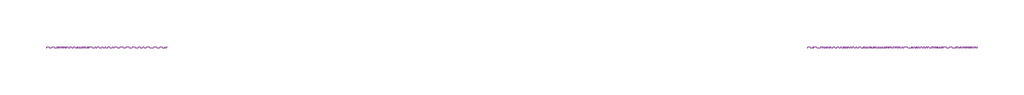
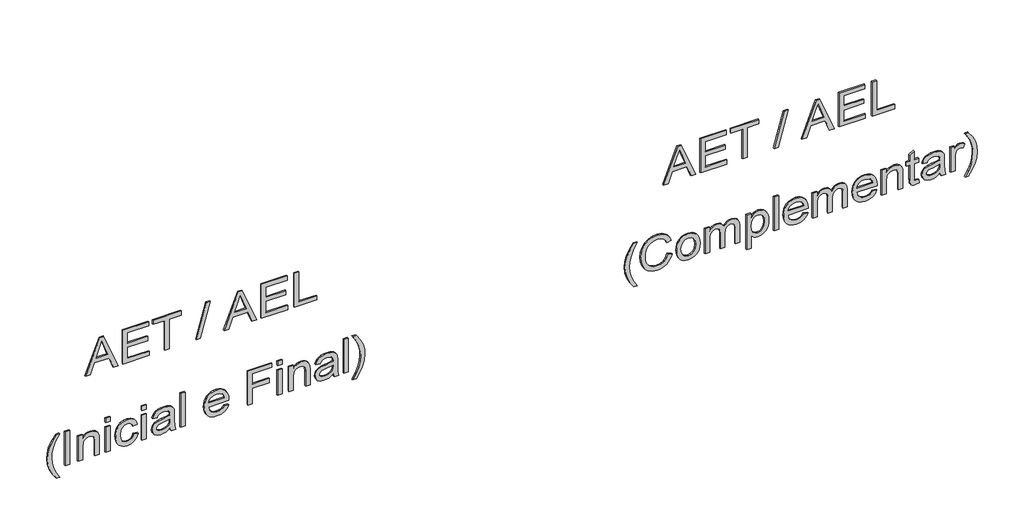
# One storey, part 5 of 5: 2 proxies.
"""IFC4 building model written with IfcOpenShell, lengths in millimetres."""

import ifcopenshell
import ifcopenshell.guid

model = None  # the IFC model being written
_history = None  # IfcOwnerHistory: only IFC2X3 demands one
_inside = {}  # id of a spatial element -> (the spatial element, [elements in it])
_under = {}  # id of a project, library or spatial element -> (it, [spatial elements below it])
_declared = {}  # id of a project -> (the project, [libraries it declares])
_typed = {}  # id of a type object -> (the type object, [elements of that type])
_made_of = {}  # id of a material, layer set ... -> (it, [elements and type objects made of it])


def new_model(schema):
    """Start an empty IFC model of exactly this schema.

    Asked for "IFC4X3", IfcOpenShell would pick the latest addendum, in which some entities
    have other attributes; the version numbers below select the first issue.
    IFC2X3 requires an IfcOwnerHistory on every rooted entity: one is made here for all.
    """
    global model, _history
    if schema == "IFC4X3":
        model = ifcopenshell.file(schema_version=(4, 3, 0, 0))
    else:
        model = ifcopenshell.file(schema=schema)
    _inside.clear()
    _under.clear()
    _declared.clear()
    _typed.clear()
    _made_of.clear()
    _history = None
    if model.schema == "IFC2X3":
        org = make("IfcOrganization", Name="unknown")
        user = make(
            "IfcPersonAndOrganization",
            ThePerson=make("IfcPerson", FamilyName="unknown"),
            TheOrganization=org,
        )
        app = make(
            "IfcApplication",
            ApplicationDeveloper=org,
            Version="unknown",
            ApplicationFullName="unknown",
            ApplicationIdentifier="unknown",
        )
        _history = make(
            "IfcOwnerHistory",
            OwningUser=user,
            OwningApplication=app,
            ChangeAction="ADDED",
            CreationDate=0,
        )
    return model


def make(cls, **values):
    """One entity of the class cls with the attributes given. An attribute that is None is left unset."""
    return model.create_entity(
        cls, **{name: value for name, value in values.items() if value is not None}
    )


def rooted(cls, **values):
    """An entity with a GlobalId (a new one), such as an element, a storey or a relation."""
    return make(cls, GlobalId=ifcopenshell.guid.new(), OwnerHistory=_history, **values)


def si_unit(unit_type, name, prefix=None):
    """IfcSIUnit, for example si_unit("LENGTHUNIT", "METRE", prefix="MILLI")."""
    return make("IfcSIUnit", UnitType=unit_type, Prefix=prefix, Name=name)


def assignment(units):
    """IfcUnitAssignment: the units of a project."""
    return None if units is None else make("IfcUnitAssignment", Units=units)


def point(xyz):
    """IfcCartesianPoint."""
    return None if xyz is None else make("IfcCartesianPoint", Coordinates=xyz)


def direction(xyz):
    """IfcDirection."""
    return None if xyz is None else make("IfcDirection", DirectionRatios=xyz)


def frame(location, z_axis=None, x_axis=None):
    """IfcAxis2Placement3D, a coordinate frame: its origin and axes. An axis left out is left unset."""
    return make(
        "IfcAxis2Placement3D",
        Location=point(location),
        Axis=direction(z_axis),
        RefDirection=direction(x_axis),
    )


def origin():
    """The frame at (0, 0, 0) with its axes left unset."""
    return frame((0.0, 0.0, 0.0))


def place(relative_to, where):
    """IfcLocalPlacement: puts the frame where relative to a parent placement (None: the world)."""
    return make(
        "IfcLocalPlacement", PlacementRelTo=relative_to, RelativePlacement=where
    )


def context(
    kind, dimensions, precision=None, world=None, true_north=None, identifier=None
):
    """IfcGeometricRepresentationContext, for example the 3D "Model" context."""
    return make(
        "IfcGeometricRepresentationContext",
        ContextIdentifier=identifier,
        ContextType=kind,
        CoordinateSpaceDimension=dimensions,
        Precision=precision,
        WorldCoordinateSystem=world,
        TrueNorth=true_north,
    )


def project(units=None, contexts=None):
    """IfcProject with its units and contexts."""
    return rooted(
        "IfcProject",
        Name="project",
        RepresentationContexts=contexts,
        UnitsInContext=assignment(units),
    )


def spatial(cls, under=None, at=None, **own):
    """A site, building, storey or space (cls), placed at a placement, below another one or the project."""
    s = rooted(cls, ObjectPlacement=at, **own)
    if under is not None:
        _under.setdefault(under.id(), (under, []))[1].append(s)
    return s


def polyline(points):
    """IfcPolyline through the points."""
    return make("IfcPolyline", Points=[point(p) for p in points])


def outline(outer, holes=None, kind="AREA"):
    """IfcArbitraryClosedProfileDef: a profile drawn as a closed curve; with holes, ...WithVoids."""
    if holes is None:
        return make("IfcArbitraryClosedProfileDef", ProfileType=kind, OuterCurve=outer)
    return make(
        "IfcArbitraryProfileDefWithVoids",
        ProfileType=kind,
        OuterCurve=outer,
        InnerCurves=holes,
    )


def extrude(swept, where, along, depth):
    """IfcExtrudedAreaSolid: the profile swept, set in the frame where, extruded along a direction by depth."""
    return make(
        "IfcExtrudedAreaSolid",
        SweptArea=swept,
        Position=where,
        ExtrudedDirection=direction(along),
        Depth=depth,
    )


def shape(context_of_items, identifier, shape_type, items):
    """IfcShapeRepresentation: the items that make up one representation, for example the "Body"."""
    return make(
        "IfcShapeRepresentation",
        ContextOfItems=context_of_items,
        RepresentationIdentifier=identifier,
        RepresentationType=shape_type,
        Items=items,
    )


def made_of(thing, what):
    """Note that an element or type object is made of a material, layer set ...; save() writes the relation."""
    if what is not None:
        _made_of.setdefault(what.id(), (what, []))[1].append(thing)
    return thing


def element(
    cls,
    number,
    at=None,
    inside=None,
    cuts=None,
    type_object=None,
    material=None,
    context=None,
    identifier="Body",
    shape_type=None,
    held_by="IfcProductDefinitionShape",
    body=None,
    shapes=None,
    **own,
):
    """One element of the class cls, such as IfcWall. Its Tag is "e" and its number.

    at: its placement. inside: the storey or other place that contains it. cuts: it is an
    opening in that element (IfcRelVoidsElement). A single representation is given by context,
    identifier, shape_type and body (its items); several are given by shapes. held_by: the class
    of the entity that holds the representations. save() writes the other relations.
    """
    e = rooted(cls, Tag="e%d" % number, ObjectPlacement=at, **own)
    if body is not None:
        shapes = [shape(context, identifier, shape_type, body)]
    if shapes is not None:
        e.Representation = make(held_by, Representations=shapes)
    if inside is not None:
        _inside.setdefault(inside.id(), (inside, []))[1].append(e)
    if cuts is not None:
        rooted(
            "IfcRelVoidsElement", RelatingBuildingElement=cuts, RelatedOpeningElement=e
        )
    if type_object is not None:
        _typed.setdefault(type_object.id(), (type_object, []))[1].append(e)
    return made_of(e, material)


def aggregate(whole, parts):
    """IfcRelAggregates: a whole, such as a stair, and the parts it consists of."""
    return rooted("IfcRelAggregates", RelatingObject=whole, RelatedObjects=parts)


def save(model, path):
    """Write the relations noted so far, then the file.

    IfcRelAggregates (storeys below a building ...), IfcRelContainedInSpatialStructure (elements
    in a storey), IfcRelDefinesByType, IfcRelAssociatesMaterial and IfcRelDeclares: one each for
    every whole, place, type object, material and project.
    """
    for whole, parts in _under.values():
        aggregate(whole, parts)
    for where, things in _inside.values():
        rooted(
            "IfcRelContainedInSpatialStructure",
            RelatedElements=things,
            RelatingStructure=where,
        )
    for kind, things in _typed.values():
        rooted("IfcRelDefinesByType", RelatedObjects=things, RelatingType=kind)
    for what, things in _made_of.values():
        rooted("IfcRelAssociatesMaterial", RelatedObjects=things, RelatingMaterial=what)
    for by, libraries in _declared.values():
        rooted("IfcRelDeclares", RelatingContext=by, RelatedDefinitions=libraries)
    model.write(path)


model = new_model("IFC4")

# Units and contexts
model_context = context("Model", 3, world=origin())
ifc_project = project(units=[si_unit("LENGTHUNIT", "METRE", prefix="MILLI")], contexts=[model_context])

# Site, building, storey
site = spatial("IfcSite", under=ifc_project)
building = spatial("IfcBuilding", under=site)
storey = spatial("IfcBuildingStorey", under=building, Name="03 - Marelli - Planta Baixa - Painéis Mistos", Elevation=24000.0)

# Proxies
placement = place(None, origin())
element("IfcBuildingElementProxy", 1, Name="300mm Arial", ObjectType="300mm Arial", at=placement, inside=storey, context=model_context, shape_type="SweptSolid", body=[
    extrude(outline(polyline([(30065.9244535, 32862.8276534), (30065.9244535, 32902.6324853), (30160.1022443, 32937.06624), (30160.1022443, 33061.1896252), (30065.9244535, 33095.6969563), (30065.9244535, 33135.5017882), (30367.293384, 33015.2043758), (30367.293384, 32983.1250658), (30065.9244535, 32862.8276534)]), holes=[polyline([(30197.7733606, 32950.898603), (30278.3395176, 32980.4027391), (30329.6222677, 32999.1647208), (30271.8647944, 33020.2811473), (30197.7733606, 33047.4308386), (30197.7733606, 32950.898603)])]), frame((0.0, 8778.3159498, 0.0), z_axis=(0.0, 1.0, 0.0), x_axis=(0.0, 0.0, 1.0)), (0.0, 0.0, 1.0), 10.0),
    extrude(outline(polyline([(30065.9244535, 33175.7480785), (30065.9244535, 33397.0658868), (30103.5955698, 33397.0658868), (30103.5955698, 33213.4191948), (30202.4822501, 33213.4191948), (30202.4822501, 33382.9392182), (30240.1533665, 33382.9392182), (30240.1533665, 33213.4191948), (30329.6222677, 33213.4191948), (30329.6222677, 33392.3569973), (30367.293384, 33392.3569973), (30367.293384, 33175.7480785), (30065.9244535, 33175.7480785)])), frame((0.0, 8778.3159498, 0.0), z_axis=(0.0, 1.0, 0.0), x_axis=(0.0, 0.0, 1.0)), (0.0, 0.0, 1.0), 10.0),
    extrude(outline(polyline([(30065.9244535, 33528.9147939), (30065.9244535, 33566.5859102), (30329.6222677, 33566.5859102), (30329.6222677, 33665.4725905), (30367.293384, 33665.4725905), (30367.293384, 33430.0281136), (30329.6222677, 33430.0281136), (30329.6222677, 33528.9147939), (30065.9244535, 33528.9147939)])), frame((0.0, 8778.3159498, 0.0), z_axis=(0.0, 1.0, 0.0), x_axis=(0.0, 0.0, 1.0)), (0.0, 0.0, 1.0), 10.0),
    extrude(outline(polyline([(30065.9244535, 33792.612608), (30065.9244535, 33826.6049044), (30367.293384, 33911.364916), (30367.293384, 33877.3726197), (30065.9244535, 33792.612608)])), frame((0.0, 8778.3159498, 0.0), z_axis=(0.0, 1.0, 0.0), x_axis=(0.0, 0.0, 1.0)), (0.0, 0.0, 1.0), 10.0),
    extrude(outline(polyline([(30065.9244535, 34025.9233693), (30065.9244535, 34065.7282012), (30160.1022443, 34100.161956), (30160.1022443, 34224.2853411), (30065.9244535, 34258.7926723), (30065.9244535, 34298.5975042), (30367.293384, 34178.3000917), (30367.293384, 34146.2207818), (30065.9244535, 34025.9233693)]), holes=[polyline([(30197.7733606, 34113.994319), (30278.3395176, 34143.498455), (30329.6222677, 34162.2604368), (30271.8647944, 34183.3768633), (30197.7733606, 34210.5265545), (30197.7733606, 34113.994319)])]), frame((0.0, 8778.3159498, 0.0), z_axis=(0.0, 1.0, 0.0), x_axis=(0.0, 0.0, 1.0)), (0.0, 0.0, 1.0), 10.0),
    extrude(outline(polyline([(30065.9244535, 34338.8437944), (30065.9244535, 34560.1616027), (30103.5955698, 34560.1616027), (30103.5955698, 34376.5149107), (30202.4822501, 34376.5149107), (30202.4822501, 34546.0349341), (30240.1533665, 34546.0349341), (30240.1533665, 34376.5149107), (30329.6222677, 34376.5149107), (30329.6222677, 34555.4527132), (30367.293384, 34555.4527132), (30367.293384, 34338.8437944), (30065.9244535, 34338.8437944)])), frame((0.0, 8778.3159498, 0.0), z_axis=(0.0, 1.0, 0.0), x_axis=(0.0, 0.0, 1.0)), (0.0, 0.0, 1.0), 10.0),
    extrude(outline(polyline([(30065.9244535, 34616.6682772), (30065.9244535, 34805.0238587), (30103.5955698, 34805.0238587), (30103.5955698, 34654.3393935), (30367.293384, 34654.3393935), (30367.293384, 34616.6682772), (30065.9244535, 34616.6682772)])), frame((0.0, 8778.3159498, 0.0), z_axis=(0.0, 1.0, 0.0), x_axis=(0.0, 0.0, 1.0)), (0.0, 0.0, 1.0), 10.0),
    extrude(outline(polyline([(29249.3155348, 32615.3902234), (29249.3155348, 32643.6435607), (29297.5540614, 32614.8016122), (29345.8109821, 32594.2002205), (29394.0862969, 32581.8393855), (29442.3800058, 32577.7191071), (29480.2534572, 32580.091946), (29517.9429677, 32587.2104626), (29575.7740173, 32608.4004655), (29635.4444769, 32643.6435607), (29635.4444769, 32615.3902234), (29584.934279, 32580.6989513), (29534.2033518, 32556.3819514), (29489.4137189, 32544.131481), (29442.600735, 32540.0479908), (29389.2210575, 32545.5110385), (29337.68079, 32561.9001813), (29290.2791949, 32586.1987871), (29249.3155348, 32615.3902234)])), frame((0.0, 8778.3159498, 0.0), z_axis=(0.0, 1.0, 0.0), x_axis=(0.0, 0.0, 1.0)), (0.0, 0.0, 1.0), 10.0),
    extrude(outline(polyline([(32728.4035724, 8778.3159498), (32690.732456, 8778.3159498), (32690.732456, 8788.3159498), (32728.4035724, 8788.3159498), (32728.4035724, 8778.3159498)])), frame((0.0, 0.0, 29334.0755465), z_axis=(0.0, 0.0, 1.0), x_axis=(1.0, 0.0, 0.0)), (0.0, 0.0, 1.0), 301.3689304),
    extrude(outline(polyline([(29334.0755465, 32799.0369154), (29334.0755465, 32836.7080317), (29451.5034793, 32836.7080317), (29486.2131456, 32841.003054), (29498.5877762, 32846.3718319), (29507.6422718, 32853.8881209), (29518.7339139, 32872.6960879), (29522.431128, 32894.7598106), (29520.7848561, 32908.6565529), (29515.8460403, 32920.6219148), (29508.1481095, 32929.9569205), (29498.2244927, 32935.962594), (29464.8943839, 32940.3036016), (29334.0755465, 32940.3036016), (29334.0755465, 32977.9747179), (29469.9711555, 32977.9747179), (29506.391473, 32975.9881551), (29534.0929872, 32964.6941779), (29544.6328064, 32954.5958171), (29552.9285454, 32940.4139662), (29558.3088196, 32923.4086209), (29560.1022443, 32904.8397772), (29557.8765582, 32883.8613065), (29551.1995, 32865.513192), (29540.0710697, 32849.7954337), (29524.4912672, 32836.7080317), (29555.3933548, 32836.7080317), (29555.3933548, 32799.0369154), (29334.0755465, 32799.0369154)])), frame((0.0, 8778.3159498, 0.0), z_axis=(0.0, 1.0, 0.0), x_axis=(0.0, 0.0, 1.0)), (0.0, 0.0, 1.0), 10.0),
    extrude(outline(polyline([(33067.4436191, 8778.3159498), (33029.7725028, 8778.3159498), (33029.7725028, 8788.3159498), (33067.4436191, 8788.3159498), (33067.4436191, 8778.3159498)])), frame((0.0, 0.0, 29597.7733606), z_axis=(0.0, 0.0, 1.0), x_axis=(1.0, 0.0, 0.0)), (0.0, 0.0, 1.0), 37.6711163),
    extrude(outline(polyline([(33067.4436191, 8778.3159498), (33029.7725028, 8778.3159498), (33029.7725028, 8788.3159498), (33067.4436191, 8788.3159498), (33067.4436191, 8778.3159498)])), frame((0.0, 0.0, 29334.0755465), z_axis=(0.0, 0.0, 1.0), x_axis=(1.0, 0.0, 0.0)), (0.0, 0.0, 1.0), 221.3178083),
    extrude(outline(polyline([(29414.1266686, 33265.2169797), (29393.2493654, 33258.7882419), (29378.5892679, 33247.1539738), (29369.9256469, 33231.160304), (29367.0377732, 33211.6533612), (29371.6638893, 33187.6214699), (29385.5422376, 33168.647956), (29409.6477053, 33156.3147121), (29444.9551798, 33152.2036308), (29479.7936048, 33156.4066826), (29503.816299, 33169.015838), (29517.7774208, 33188.3388398), (29522.431128, 33212.6834308), (29520.0674862, 33229.1737412), (29512.9765607, 33243.0336954), (29501.1951398, 33253.6746821), (29484.7600117, 33260.5080902), (29489.4689012, 33298.1792065), (29519.4512838, 33287.9244959), (29541.7081445, 33269.6683519), (29555.5037194, 33244.2201148), (29560.1022443, 33212.3891252), (29556.7545181, 33185.7452717), (29546.7113397, 33161.1431633), (29529.9635118, 33140.5785598), (29506.5018376, 33126.0472209), (29477.448357, 33117.4111911), (29443.9251102, 33114.5325145), (29417.8675687, 33116.2178739), (29395.024396, 33121.2739521), (29375.3955923, 33129.700749), (29358.9811575, 33141.4982647), (29346.0248135, 33156.0732895), (29336.7702821, 33172.8326137), (29331.2175632, 33191.7762372), (29329.3666569, 33212.90416), (29334.6733547, 33245.535293), (29350.593448, 33272.648196), (29375.9129264, 33292.3850651), (29409.4177791, 33302.888096), (29414.1266686, 33265.2169797)])), frame((0.0, 8778.3159498, 0.0), z_axis=(0.0, 1.0, 0.0), x_axis=(0.0, 0.0, 1.0)), (0.0, 0.0, 1.0), 10.0),
    extrude(outline(polyline([(33373.5214391, 8778.3159498), (33335.8503228, 8778.3159498), (33335.8503228, 8788.3159498), (33373.5214391, 8788.3159498), (33373.5214391, 8778.3159498)])), frame((0.0, 0.0, 29597.7733606), z_axis=(0.0, 0.0, 1.0), x_axis=(1.0, 0.0, 0.0)), (0.0, 0.0, 1.0), 37.6711163),
    extrude(outline(polyline([(33373.5214391, 8778.3159498), (33335.8503228, 8778.3159498), (33335.8503228, 8788.3159498), (33373.5214391, 8788.3159498), (33373.5214391, 8778.3159498)])), frame((0.0, 0.0, 29334.0755465), z_axis=(0.0, 0.0, 1.0), x_axis=(1.0, 0.0, 0.0)), (0.0, 0.0, 1.0), 221.3178083),
    extrude(outline(polyline([(29362.3288837, 33571.2947997), (29334.0755465, 33580.7125788), (29334.0755465, 33618.3836951), (29365.7501862, 33610.8789024), (29431.1963932, 33608.965916), (29478.0645594, 33608.965916), (29511.0267861, 33607.126506), (29525.1442577, 33602.5831634), (29536.5945848, 33595.5750114), (29545.856014, 33585.0076011), (29553.406792, 33569.7864835), (29558.4283812, 33549.598959), (29560.1022443, 33524.1323279), (29558.207652, 33497.5804449), (29552.5238752, 33474.4314704), (29543.3452194, 33455.5039417), (29530.9659903, 33441.6163964), (29514.7791825, 33431.8583265), (29494.1777908, 33425.319224), (29489.4689012, 33462.9903403), (29505.1314772, 33470.4767389), (29515.1838527, 33481.1637109), (29520.6193092, 33496.8354839), (29522.431128, 33519.2762856), (29519.7088012, 33543.5197091), (29511.5418209, 33560.9205274), (29500.5421493, 33568.7012316), (29483.7299421, 33571.2947997), (29475.3422326, 33571.0740705), (29468.3524747, 33544.2554731), (29462.3927864, 33505.7382282), (29456.7274037, 33473.1438834), (29444.3665686, 33446.7667443), (29434.8752131, 33436.1625458), (29422.7351073, 33427.8208216), (29408.5532564, 33422.4129563), (29392.9366657, 33420.6103345), (29367.6079903, 33425.3836034), (29347.2457219, 33439.70341), (29333.8364232, 33462.925961), (29329.3666569, 33494.4074627), (29331.224461, 33515.2755689), (29336.7978732, 33534.7641176), (29346.896234, 33553.2961731), (29362.3288837, 33571.2947997)]), holes=[polyline([(29437.6711163, 33571.2947997), (29427.0025384, 33571.0740705), (29410.0799667, 33569.5841484), (29397.8662844, 33565.1143822), (29386.0112871, 33555.0344155), (29376.0508821, 33540.5398649), (29369.2910505, 33522.6607999), (29367.0377732, 33502.4272902), (29369.0795183, 33483.3434117), (29375.2047535, 33469.5018516), (29384.3834093, 33461.086551), (29395.5854161, 33458.2814508), (29410.0799667, 33463.4317987), (29420.0127805, 33478.1102903), (29426.1196217, 33510.5206941), (29437.6711163, 33571.2947997)])]), frame((0.0, 8778.3159498, 0.0), z_axis=(0.0, 1.0, 0.0), x_axis=(0.0, 0.0, 1.0)), (0.0, 0.0, 1.0), 10.0),
    extrude(outline(polyline([(33698.4348172, 8778.3159498), (33660.7637009, 8778.3159498), (33660.7637009, 8788.3159498), (33698.4348172, 8788.3159498), (33698.4348172, 8778.3159498)])), frame((0.0, 0.0, 29334.0755465), z_axis=(0.0, 0.0, 1.0), x_axis=(1.0, 0.0, 0.0)), (0.0, 0.0, 1.0), 301.3689304),
    extrude(outline(polyline([(29400.0, 34027.6156265), (29385.1191733, 34017.0574133), (29374.9104479, 34003.3354148), (29369.0059419, 33986.4496313), (29367.0377732, 33966.4000625), (29371.2868103, 33939.7378149), (29384.0339214, 33917.8764274), (29404.7640718, 33902.7288862), (29432.9622268, 33896.2081778), (29432.9622268, 34065.507472), (29443.1157698, 34065.7282012), (29469.3687487, 34063.9416743), (29492.5039277, 34058.5820935), (29512.5213067, 34049.6494588), (29529.4208859, 34037.1437702), (29542.8439802, 34021.8237844), (29552.4319047, 34004.4482579), (29558.1846594, 33985.0171907), (29560.1022443, 33963.530583), (29558.1800609, 33941.3289046), (29552.4135106, 33921.2977299), (29542.8025935, 33903.437059), (29529.3473095, 33887.746892), (29512.4109422, 33874.9675911), (29492.3567749, 33865.8395191), (29469.1848077, 33860.3626759), (29442.8950406, 33858.5370615), (29417.467497, 33860.3442818), (29395.0427901, 33865.7659427), (29375.62092, 33874.8020442), (29359.2018867, 33887.4525864), (29346.1489737, 33903.1841402), (29336.8254644, 33921.4632768), (29331.2313588, 33942.2899963), (29329.3666569, 33965.6642985), (29333.6892704, 34001.3212609), (29346.6571107, 34030.0068595), (29367.4608375, 34051.2428477), (29395.2911105, 34064.5509788), (29400.0, 34027.6156265)]), holes=[polyline([(29470.6333431, 33896.2081778), (29491.8693312, 33902.3977924), (29508.3412476, 33916.9935106), (29518.9086579, 33937.9903754), (29522.431128, 33963.3834302), (29518.0165441, 33991.011368), (29504.7727922, 34012.9739231), (29490.535759, 34022.9619193), (29470.6333431, 34028.0570849), (29470.6333431, 33896.2081778)])]), frame((0.0, 8778.3159498, 0.0), z_axis=(0.0, 1.0, 0.0), x_axis=(0.0, 0.0, 1.0)), (0.0, 0.0, 1.0), 10.0),
    extrude(outline(polyline([(29334.0755465, 34225.8304455), (29334.0755465, 34263.5015618), (29470.6333431, 34263.5015618), (29470.6333431, 34404.768248), (29508.3044594, 34404.768248), (29508.3044594, 34263.5015618), (29597.7733606, 34263.5015618), (29597.7733606, 34428.3126957), (29635.4444769, 34428.3126957), (29635.4444769, 34225.8304455), (29334.0755465, 34225.8304455)])), frame((0.0, 8778.3159498, 0.0), z_axis=(0.0, 1.0, 0.0), x_axis=(0.0, 0.0, 1.0)), (0.0, 0.0, 1.0), 10.0),
    extrude(outline(polyline([(34513.0727074, 8778.3159498), (34475.4015911, 8778.3159498), (34475.4015911, 8788.3159498), (34513.0727074, 8788.3159498), (34513.0727074, 8778.3159498)])), frame((0.0, 0.0, 29597.7733606), z_axis=(0.0, 0.0, 1.0), x_axis=(1.0, 0.0, 0.0)), (0.0, 0.0, 1.0), 37.6711163),
    extrude(outline(polyline([(34513.0727074, 8778.3159498), (34475.4015911, 8778.3159498), (34475.4015911, 8788.3159498), (34513.0727074, 8788.3159498), (34513.0727074, 8778.3159498)])), frame((0.0, 0.0, 29334.0755465), z_axis=(0.0, 0.0, 1.0), x_axis=(1.0, 0.0, 0.0)), (0.0, 0.0, 1.0), 221.3178083),
    extrude(outline(polyline([(29334.0755465, 34569.5793818), (29334.0755465, 34607.2504981), (29451.5034793, 34607.2504981), (29486.2131456, 34611.5455204), (29498.5877762, 34616.9142983), (29507.6422718, 34624.4305873), (29518.7339139, 34643.2385543), (29522.431128, 34665.302277), (29520.7848561, 34679.1990193), (29515.8460403, 34691.1643812), (29508.1481095, 34700.4993868), (29498.2244927, 34706.5050604), (29464.8943839, 34710.846068), (29334.0755465, 34710.846068), (29334.0755465, 34748.5171843), (29469.9711555, 34748.5171843), (29506.391473, 34746.5306215), (29534.0929872, 34735.2366442), (29544.6328064, 34725.1382835), (29552.9285454, 34710.9564326), (29558.3088196, 34693.9510873), (29560.1022443, 34675.3822436), (29557.8765582, 34654.4037729), (29551.1995, 34636.0556583), (29540.0710697, 34620.3379001), (29524.4912672, 34607.2504981), (29555.3933548, 34607.2504981), (29555.3933548, 34569.5793818), (29334.0755465, 34569.5793818)])), frame((0.0, 8778.3159498, 0.0), z_axis=(0.0, 1.0, 0.0), x_axis=(0.0, 0.0, 1.0)), (0.0, 0.0, 1.0), 10.0),
    extrude(outline(polyline([(29362.3288837, 34941.5816553), (29334.0755465, 34950.9994344), (29334.0755465, 34988.6705507), (29365.7501862, 34981.165758), (29431.1963932, 34979.2527716), (29478.0645594, 34979.2527716), (29511.0267861, 34977.4133617), (29525.1442577, 34972.870019), (29536.5945848, 34965.861867), (29545.856014, 34955.2944567), (29553.406792, 34940.0733392), (29558.4283812, 34919.8858147), (29560.1022443, 34894.4191836), (29558.207652, 34867.8673006), (29552.5238752, 34844.718326), (29543.3452194, 34825.7907974), (29530.9659903, 34811.903252), (29514.7791825, 34802.1451821), (29494.1777908, 34795.6060797), (29489.4689012, 34833.277196), (29505.1314772, 34840.7635946), (29515.1838527, 34851.4505665), (29520.6193092, 34867.1223395), (29522.431128, 34889.5631412), (29519.7088012, 34913.8065647), (29511.5418209, 34931.2073831), (29500.5421493, 34938.9880873), (29483.7299421, 34941.5816553), (29475.3422326, 34941.3609261), (29468.3524747, 34914.5423287), (29462.3927864, 34876.0250838), (29456.7274037, 34843.430739), (29444.3665686, 34817.0536), (29434.8752131, 34806.4494015), (29422.7351073, 34798.1076772), (29408.5532564, 34792.6998119), (29392.9366657, 34790.8971901), (29367.6079903, 34795.670459), (29347.2457219, 34809.9902657), (29333.8364232, 34833.2128166), (29329.3666569, 34864.6943183), (29331.224461, 34885.5624245), (29336.7978732, 34905.0509732), (29346.896234, 34923.5830287), (29362.3288837, 34941.5816553)]), holes=[polyline([(29437.6711163, 34941.5816553), (29427.0025384, 34941.3609261), (29410.0799667, 34939.8710041), (29397.8662844, 34935.4012378), (29386.0112871, 34925.3212712), (29376.0508821, 34910.8267205), (29369.2910505, 34892.9476556), (29367.0377732, 34872.7141458), (29369.0795183, 34853.6302673), (29375.2047535, 34839.7887073), (29384.3834093, 34831.3734066), (29395.5854161, 34828.5683064), (29410.0799667, 34833.7186544), (29420.0127805, 34848.397146), (29426.1196217, 34880.8075497), (29437.6711163, 34941.5816553)])]), frame((0.0, 8778.3159498, 0.0), z_axis=(0.0, 1.0, 0.0), x_axis=(0.0, 0.0, 1.0)), (0.0, 0.0, 1.0), 10.0),
    extrude(outline(polyline([(35068.7216729, 8778.3159498), (35031.0505566, 8778.3159498), (35031.0505566, 8788.3159498), (35068.7216729, 8788.3159498), (35068.7216729, 8778.3159498)])), frame((0.0, 0.0, 29334.0755465), z_axis=(0.0, 0.0, 1.0), x_axis=(1.0, 0.0, 0.0)), (0.0, 0.0, 1.0), 301.3689304),
    extrude(outline(polyline([(29249.3155348, 35134.6461264), (29290.2791949, 35163.699607), (29337.68079, 35188.0258039), (29389.2210575, 35204.4977202), (29442.600735, 35209.988359), (29489.4137189, 35205.9048689), (29534.2033518, 35193.6543984), (29584.934279, 35169.3373986), (29635.4444769, 35134.6461264), (29635.4444769, 35106.3927892), (29575.1854061, 35141.8566135), (29546.8400984, 35153.8311725), (29517.2807801, 35162.8258872), (29479.9775458, 35169.9444038), (29442.3800058, 35172.3172427), (29394.0862969, 35168.1969644), (29345.8109821, 35155.8361293), (29297.5540614, 35135.2347376), (29249.3155348, 35106.3927892), (29249.3155348, 35134.6461264)])), frame((0.0, 8778.3159498, 0.0), z_axis=(0.0, 1.0, 0.0), x_axis=(0.0, 0.0, 1.0)), (0.0, 0.0, 1.0), 10.0),
])
element("IfcBuildingElementProxy", 2, Name="300mm Arial", ObjectType="300mm Arial", at=placement, inside=storey, context=model_context, shape_type="SweptSolid", body=[
    extrude(outline(polyline([(30065.9244535, 37716.8520777), (30065.9244535, 37756.6569096), (30160.1022443, 37791.0906643), (30160.1022443, 37915.2140495), (30065.9244535, 37949.7213807), (30065.9244535, 37989.5262125), (30367.293384, 37869.2288001), (30367.293384, 37837.1494901), (30065.9244535, 37716.8520777)]), holes=[polyline([(30197.7733606, 37804.9230274), (30278.3395176, 37834.4271634), (30329.6222677, 37853.1891451), (30271.8647944, 37874.3055716), (30197.7733606, 37901.4552629), (30197.7733606, 37804.9230274)])]), frame((0.0, 8778.3159498, 0.0), z_axis=(0.0, 1.0, 0.0), x_axis=(0.0, 0.0, 1.0)), (0.0, 0.0, 1.0), 10.0),
    extrude(outline(polyline([(30065.9244535, 38029.7725028), (30065.9244535, 38251.0903111), (30103.5955698, 38251.0903111), (30103.5955698, 38067.4436191), (30202.4822501, 38067.4436191), (30202.4822501, 38236.9636425), (30240.1533665, 38236.9636425), (30240.1533665, 38067.4436191), (30329.6222677, 38067.4436191), (30329.6222677, 38246.3814216), (30367.293384, 38246.3814216), (30367.293384, 38029.7725028), (30065.9244535, 38029.7725028)])), frame((0.0, 8778.3159498, 0.0), z_axis=(0.0, 1.0, 0.0), x_axis=(0.0, 0.0, 1.0)), (0.0, 0.0, 1.0), 10.0),
    extrude(outline(polyline([(30065.9244535, 38382.9392182), (30065.9244535, 38420.6103345), (30329.6222677, 38420.6103345), (30329.6222677, 38519.4970148), (30367.293384, 38519.4970148), (30367.293384, 38284.0525379), (30329.6222677, 38284.0525379), (30329.6222677, 38382.9392182), (30065.9244535, 38382.9392182)])), frame((0.0, 8778.3159498, 0.0), z_axis=(0.0, 1.0, 0.0), x_axis=(0.0, 0.0, 1.0)), (0.0, 0.0, 1.0), 10.0),
    extrude(outline(polyline([(30065.9244535, 38646.6370323), (30065.9244535, 38680.6293287), (30367.293384, 38765.3893404), (30367.293384, 38731.397044), (30065.9244535, 38646.6370323)])), frame((0.0, 8778.3159498, 0.0), z_axis=(0.0, 1.0, 0.0), x_axis=(0.0, 0.0, 1.0)), (0.0, 0.0, 1.0), 10.0),
    extrude(outline(polyline([(30065.9244535, 38879.9477937), (30065.9244535, 38919.7526255), (30160.1022443, 38954.1863803), (30160.1022443, 39078.3097655), (30065.9244535, 39112.8170966), (30065.9244535, 39152.6219285), (30367.293384, 39032.3245161), (30367.293384, 39000.2452061), (30065.9244535, 38879.9477937)]), holes=[polyline([(30197.7733606, 38968.0187433), (30278.3395176, 38997.5228793), (30329.6222677, 39016.2848611), (30271.8647944, 39037.4012876), (30197.7733606, 39064.5509788), (30197.7733606, 38968.0187433)])]), frame((0.0, 8778.3159498, 0.0), z_axis=(0.0, 1.0, 0.0), x_axis=(0.0, 0.0, 1.0)), (0.0, 0.0, 1.0), 10.0),
    extrude(outline(polyline([(30065.9244535, 39192.8682188), (30065.9244535, 39414.1860271), (30103.5955698, 39414.1860271), (30103.5955698, 39230.5393351), (30202.4822501, 39230.5393351), (30202.4822501, 39400.0593584), (30240.1533665, 39400.0593584), (30240.1533665, 39230.5393351), (30329.6222677, 39230.5393351), (30329.6222677, 39409.4771375), (30367.293384, 39409.4771375), (30367.293384, 39192.8682188), (30065.9244535, 39192.8682188)])), frame((0.0, 8778.3159498, 0.0), z_axis=(0.0, 1.0, 0.0), x_axis=(0.0, 0.0, 1.0)), (0.0, 0.0, 1.0), 10.0),
    extrude(outline(polyline([(30065.9244535, 39470.6927015), (30065.9244535, 39659.048283), (30103.5955698, 39659.048283), (30103.5955698, 39508.3638178), (30367.293384, 39508.3638178), (30367.293384, 39470.6927015), (30065.9244535, 39470.6927015)])), frame((0.0, 8778.3159498, 0.0), z_axis=(0.0, 1.0, 0.0), x_axis=(0.0, 0.0, 1.0)), (0.0, 0.0, 1.0), 10.0),
    extrude(outline(polyline([(29249.3155348, 37469.4146478), (29249.3155348, 37497.667985), (29297.5540614, 37468.8260366), (29345.8109821, 37448.2246448), (29394.0862969, 37435.8638098), (29442.3800058, 37431.7435314), (29480.2534572, 37434.1163703), (29517.9429677, 37441.2348869), (29575.7740173, 37462.4248898), (29635.4444769, 37497.667985), (29635.4444769, 37469.4146478), (29584.934279, 37434.7233756), (29534.2033518, 37410.4063757), (29489.4137189, 37398.1559053), (29442.600735, 37394.0724151), (29389.2210575, 37399.5354628), (29337.68079, 37415.9246057), (29290.2791949, 37440.2232114), (29249.3155348, 37469.4146478)])), frame((0.0, 8778.3159498, 0.0), z_axis=(0.0, 1.0, 0.0), x_axis=(0.0, 0.0, 1.0)), (0.0, 0.0, 1.0), 10.0),
    extrude(outline(polyline([(29441.2027835, 37751.94802), (29408.9395325, 37739.761929), (29385.7261786, 37719.9790747), (29371.7098746, 37693.7766796), (29367.0377732, 37662.331966), (29370.4682728, 37635.3570187), (29380.7597717, 37610.3502401), (29397.9858461, 37589.491331), (29422.2200725, 37574.9599922), (29452.3128197, 37566.4343269), (29487.1144565, 37563.5924385), (29515.5333406, 37565.9928685), (29543.1060961, 37573.1941586), (29567.4966724, 37586.3183488), (29586.3690188, 37606.4874792), (29598.4539423, 37633.0669533), (29602.4822501, 37665.4221748), (29598.8494154, 37693.491571), (29587.9509113, 37716.3370429), (29569.1061561, 37734.1793197), (29541.6345681, 37747.2391305), (29550.6108888, 37784.9102468), (29588.4291579, 37768.2727836), (29603.751443, 37756.4706693), (29616.6824952, 37742.3463), (29626.9510013, 37726.16639), (29634.2856486, 37708.1976538), (29640.1533665, 37666.8937028), (29635.6192209, 37629.0386455), (29622.0167841, 37594.4945261), (29599.6771499, 37565.3674691), (29568.9314122, 37543.763599), (29530.9843844, 37530.3818914), (29487.0408801, 37525.9213222), (29445.3782441, 37529.8668566), (29406.4747231, 37541.7034598), (29373.3837376, 37561.0908409), (29349.1587083, 37587.6887092), (29334.3146698, 37622.3891784), (29329.3666569, 37666.0843624), (29331.0014325, 37688.50677), (29335.9057594, 37709.1265558), (29344.0796375, 37727.9437199), (29355.5230668, 37744.9582621), (29370.0796975, 37759.8344903), (29387.5931797, 37772.2367121), (29408.0635135, 37782.1649274), (29431.4906988, 37789.6191364), (29441.2027835, 37751.94802)])), frame((0.0, 8778.3159498, 0.0), z_axis=(0.0, 1.0, 0.0), x_axis=(0.0, 0.0, 1.0)), (0.0, 0.0, 1.0), 10.0),
    extrude(outline(polyline([(29444.7344506, 37827.2902527), (29418.4124939, 37828.9986047), (29395.3646869, 37834.1236607), (29375.5910296, 37842.6654208), (29359.0915221, 37854.6238849), (29346.0868936, 37869.350661), (29336.7978732, 37886.1973571), (29331.224461, 37905.1639733), (29329.3666569, 37926.2505094), (29332.7419742, 37952.8391806), (29342.8679261, 37977.2757421), (29359.1007192, 37997.8495427), (29380.7965599, 38012.849931), (29409.767267, 38022.0101927), (29447.8246594, 38025.0636133), (29472.7049786, 38023.3368672), (29494.7388108, 38018.1566288), (29513.9261561, 38009.5228982), (29530.2670145, 37997.4356754), (29543.3199275, 37982.6261259), (29552.6434368, 37965.825415), (29558.2375424, 37947.0335428), (29560.1022443, 37926.2505094), (29558.5709355, 37907.4241483), (29553.9770091, 37890.0877092), (29546.3204651, 37874.2411923), (29535.6013034, 37859.8845974), (29518.830483, 37845.6245716), (29498.095734, 37835.4388389), (29473.3970566, 37829.3273992), (29444.7344506, 37827.2902527)]), holes=[polyline([(29444.808027, 37864.961369), (29478.8830968, 37869.3207706), (29503.1173232, 37882.3989755), (29517.6026768, 37902.0806623), (29522.431128, 37926.2505094), (29517.5842827, 37950.1720361), (29503.0437468, 37969.8445258), (29479.0854319, 37983.0055042), (29445.9852494, 37987.392497), (29411.1468245, 37983.0330953), (29386.535519, 37969.9548904), (29371.9122097, 37950.3099918), (29367.0377732, 37926.2505094), (29371.8846185, 37902.0806623), (29386.4251544, 37882.3989755), (29410.7145631, 37869.3207706), (29444.808027, 37864.961369)])]), frame((0.0, 8778.3159498, 0.0), z_axis=(0.0, 1.0, 0.0), x_axis=(0.0, 0.0, 1.0)), (0.0, 0.0, 1.0), 10.0),
    extrude(outline(polyline([(29334.0755465, 38067.4436191), (29334.0755465, 38105.1147354), (29445.6909438, 38105.1147354), (29471.6082304, 38106.5494752), (29490.6461236, 38110.8536945), (29504.368122, 38118.3584872), (29514.3377241, 38129.3949471), (29520.407777, 38142.7674576), (29522.431128, 38157.2804023), (29519.3961015, 38174.359324), (29510.2910222, 38185.8648334), (29495.0974958, 38192.4039358), (29473.7971282, 38194.5836366), (29334.0755465, 38194.5836366), (29334.0755465, 38232.2547529), (29459.008272, 38232.2547529), (29487.7214617, 38235.94277), (29507.3479662, 38247.006821), (29518.6603375, 38263.6442842), (29522.431128, 38284.0525379), (29520.9596, 38295.6132296), (29516.5450161, 38305.5736346), (29509.7300021, 38313.3175506), (29501.0571841, 38318.2287752), (29469.6032735, 38321.7236542), (29334.0755465, 38321.7236542), (29334.0755465, 38359.3947705), (29485.7900813, 38359.3947705), (29518.7615051, 38355.0813541), (29541.8920855, 38342.1411049), (29555.5497046, 38321.1994223), (29560.1022443, 38292.8817058), (29557.366122, 38273.3563689), (29549.1577549, 38255.7624124), (29535.4771432, 38240.0998365), (29516.3242869, 38226.368641), (29534.7643719, 38218.1648725), (29548.5875379, 38205.6200965), (29557.2235677, 38188.8262834), (29560.1022443, 38167.8754038), (29557.27875, 38148.3224757), (29548.808267, 38131.0136279), (29535.702471, 38116.4455009), (29518.9730372, 38105.1147354), (29555.3933548, 38105.1147354), (29555.3933548, 38067.4436191), (29334.0755465, 38067.4436191)])), frame((0.0, 8778.3159498, 0.0), z_axis=(0.0, 1.0, 0.0), x_axis=(0.0, 0.0, 1.0)), (0.0, 0.0, 1.0), 10.0),
    extrude(outline(polyline([(29249.3155348, 38415.9014449), (29249.3155348, 38453.5725612), (29363.5061061, 38453.5725612), (29349.9956398, 38464.213548), (29339.0419534, 38477.4481027), (29331.785481, 38492.9083436), (29329.3666569, 38510.2263885), (29332.9810975, 38534.6445559), (29343.8244193, 38557.8671069), (29361.4459669, 38577.806311), (29385.3950848, 38592.374438), (29414.2094421, 38601.2863794), (29446.4267078, 38604.2570265), (29476.7217901, 38601.6266702), (29504.4784866, 38593.7356014), (29527.9861461, 38580.6757906), (29545.5341173, 38562.5392082), (29556.4602125, 38540.2639534), (29560.1022443, 38514.7881252), (29557.4994792, 38495.6582615), (29549.6911838, 38479.6186065), (29536.6773583, 38465.8598199), (29518.4580024, 38453.5725612), (29555.3933548, 38453.5725612), (29555.3933548, 38415.9014449), (29249.3155348, 38415.9014449)]), holes=[polyline([(29442.968617, 38453.5725612), (29477.1356573, 38457.9227658), (29502.0872537, 38470.9733796), (29517.3451594, 38489.670982), (29522.431128, 38510.9621525), (29517.6486621, 38532.1705495), (29503.3012642, 38550.1783732), (29479.3521464, 38562.4840259), (29445.7645202, 38566.5859102), (29410.7237602, 38562.3828584), (29386.2412134, 38549.773703), (29371.8386333, 38531.2784357), (29367.0377732, 38509.4170481), (29371.6730864, 38487.9051484), (29385.5790258, 38469.8697336), (29409.1970499, 38457.6468543), (29442.968617, 38453.5725612)])]), frame((0.0, 8778.3159498, 0.0), z_axis=(0.0, 1.0, 0.0), x_axis=(0.0, 0.0, 1.0)), (0.0, 0.0, 1.0), 10.0),
    extrude(outline(polyline([(38684.3081486, 8778.3159498), (38646.6370323, 8778.3159498), (38646.6370323, 8788.3159498), (38684.3081486, 8788.3159498), (38684.3081486, 8778.3159498)])), frame((0.0, 0.0, 29334.0755465), z_axis=(0.0, 0.0, 1.0), x_axis=(1.0, 0.0, 0.0)), (0.0, 0.0, 1.0), 301.3689304),
    extrude(outline(polyline([(29400.0, 38895.7667195), (29385.1191733, 38885.2085062), (29374.9104479, 38871.4865078), (29369.0059419, 38854.6007242), (29367.0377732, 38834.5511555), (29371.2868103, 38807.8889079), (29384.0339214, 38786.0275203), (29404.7640718, 38770.8799791), (29432.9622268, 38764.3592708), (29432.9622268, 38933.658565), (29443.1157698, 38933.8792942), (29469.3687487, 38932.0927672), (29492.5039277, 38926.7331864), (29512.5213067, 38917.8005517), (29529.4208859, 38905.2948631), (29542.8439802, 38889.9748773), (29552.4319047, 38872.5993508), (29558.1846594, 38853.1682837), (29560.1022443, 38831.6816759), (29558.1800609, 38809.4799975), (29552.4135106, 38789.4488228), (29542.8025935, 38771.588152), (29529.3473095, 38755.8979849), (29512.4109422, 38743.1186841), (29492.3567749, 38733.9906121), (29469.1848077, 38728.5137689), (29442.8950406, 38726.6881545), (29417.467497, 38728.4953748), (29395.0427901, 38733.9170357), (29375.62092, 38742.9531372), (29359.2018867, 38755.6036793), (29346.1489737, 38771.3352331), (29336.8254644, 38789.6143697), (29331.2313588, 38810.4410892), (29329.3666569, 38833.8153915), (29333.6892704, 38869.4723538), (29346.6571107, 38898.1579524), (29367.4608375, 38919.3939406), (29395.2911105, 38932.7020718), (29400.0, 38895.7667195)]), holes=[polyline([(29470.6333431, 38764.3592708), (29491.8693312, 38770.5488853), (29508.3412476, 38785.1446035), (29518.9086579, 38806.1414684), (29522.431128, 38831.5345231), (29518.0165441, 38859.1624609), (29504.7727922, 38881.125016), (29490.535759, 38891.1130122), (29470.6333431, 38896.2081778), (29470.6333431, 38764.3592708)])]), frame((0.0, 8778.3159498, 0.0), z_axis=(0.0, 1.0, 0.0), x_axis=(0.0, 0.0, 1.0)), (0.0, 0.0, 1.0), 10.0),
    extrude(outline(polyline([(29334.0755465, 38971.5504105), (29334.0755465, 39009.2215268), (29445.6909438, 39009.2215268), (29471.6082304, 39010.6562665), (29490.6461236, 39014.9604859), (29504.368122, 39022.4652786), (29514.3377241, 39033.5017384), (29520.407777, 39046.874249), (29522.431128, 39061.3871937), (29519.3961015, 39078.4661153), (29510.2910222, 39089.9716247), (29495.0974958, 39096.5107272), (29473.7971282, 39098.690428), (29334.0755465, 39098.690428), (29334.0755465, 39136.3615443), (29459.008272, 39136.3615443), (29487.7214617, 39140.0495613), (29507.3479662, 39151.1136123), (29518.6603375, 39167.7510755), (29522.431128, 39188.1593292), (29520.9596, 39199.7200209), (29516.5450161, 39209.6804259), (29509.7300021, 39217.4243419), (29501.0571841, 39222.3355666), (29469.6032735, 39225.8304455), (29334.0755465, 39225.8304455), (29334.0755465, 39263.5015618), (29485.7900813, 39263.5015618), (29518.7615051, 39259.1881454), (29541.8920855, 39246.2478963), (29555.5497046, 39225.3062137), (29560.1022443, 39196.9884971), (29557.366122, 39177.4631602), (29549.1577549, 39159.8692038), (29535.4771432, 39144.2066278), (29516.3242869, 39130.4754324), (29534.7643719, 39122.2716639), (29548.5875379, 39109.7268878), (29557.2235677, 39092.9330748), (29560.1022443, 39071.9821951), (29557.27875, 39052.4292671), (29548.808267, 39035.1204192), (29535.702471, 39020.5522922), (29518.9730372, 39009.2215268), (29555.3933548, 39009.2215268), (29555.3933548, 38971.5504105), (29334.0755465, 38971.5504105)])), frame((0.0, 8778.3159498, 0.0), z_axis=(0.0, 1.0, 0.0), x_axis=(0.0, 0.0, 1.0)), (0.0, 0.0, 1.0), 10.0),
    extrude(outline(polyline([(29400.0, 39474.9601327), (29385.1191733, 39464.4019194), (29374.9104479, 39450.679921), (29369.0059419, 39433.7941374), (29367.0377732, 39413.7445687), (29371.2868103, 39387.0823211), (29384.0339214, 39365.2209335), (29404.7640718, 39350.0733923), (29432.9622268, 39343.552684), (29432.9622268, 39512.8519782), (29443.1157698, 39513.0727074), (29469.3687487, 39511.2861804), (29492.5039277, 39505.9265996), (29512.5213067, 39496.9939649), (29529.4208859, 39484.4882763), (29542.8439802, 39469.1682905), (29552.4319047, 39451.792764), (29558.1846594, 39432.3616969), (29560.1022443, 39410.8750891), (29558.1800609, 39388.6734107), (29552.4135106, 39368.6422361), (29542.8025935, 39350.7815652), (29529.3473095, 39335.0913981), (29512.4109422, 39322.3120973), (29492.3567749, 39313.1840253), (29469.1848077, 39307.7071821), (29442.8950406, 39305.8815677), (29417.467497, 39307.688788), (29395.0427901, 39313.1104489), (29375.62092, 39322.1465504), (29359.2018867, 39334.7970925), (29346.1489737, 39350.5286463), (29336.8254644, 39368.8077829), (29331.2313588, 39389.6345024), (29329.3666569, 39413.0088047), (29333.6892704, 39448.6657671), (29346.6571107, 39477.3513656), (29367.4608375, 39498.5873538), (29395.2911105, 39511.895485), (29400.0, 39474.9601327)]), holes=[polyline([(29470.6333431, 39343.552684), (29491.8693312, 39349.7422985), (29508.3412476, 39364.3380167), (29518.9086579, 39385.3348816), (29522.431128, 39410.7279363), (29518.0165441, 39438.3558741), (29504.7727922, 39460.3184292), (29490.535759, 39470.3064254), (29470.6333431, 39475.4015911), (29470.6333431, 39343.552684)])]), frame((0.0, 8778.3159498, 0.0), z_axis=(0.0, 1.0, 0.0), x_axis=(0.0, 0.0, 1.0)), (0.0, 0.0, 1.0), 10.0),
    extrude(outline(polyline([(29334.0755465, 39550.7438237), (29334.0755465, 39588.41494), (29451.5034793, 39588.41494), (29486.2131456, 39592.7099623), (29498.5877762, 39598.0787401), (29507.6422718, 39605.5950291), (29518.7339139, 39624.4029961), (29522.431128, 39646.4667188), (29520.7848561, 39660.3634612), (29515.8460403, 39672.3288231), (29508.1481095, 39681.6638287), (29498.2244927, 39687.6695023), (29464.8943839, 39692.0105098), (29334.0755465, 39692.0105098), (29334.0755465, 39729.6816261), (29469.9711555, 39729.6816261), (29506.391473, 39727.6950633), (29534.0929872, 39716.4010861), (29544.6328064, 39706.3027253), (29552.9285454, 39692.1208744), (29558.3088196, 39675.1155292), (29560.1022443, 39656.5466855), (29557.8765582, 39635.5682147), (29551.1995, 39617.2201002), (29540.0710697, 39601.5023419), (29524.4912672, 39588.41494), (29555.3933548, 39588.41494), (29555.3933548, 39550.7438237), (29334.0755465, 39550.7438237)])), frame((0.0, 8778.3159498, 0.0), z_axis=(0.0, 1.0, 0.0), x_axis=(0.0, 0.0, 1.0)), (0.0, 0.0, 1.0), 10.0),
    extrude(outline(polyline([(29365.4926689, 39861.5305332), (29367.0377732, 39845.1229962), (29369.576159, 39832.2839146), (29376.4555523, 39825.8459797), (29395.8797217, 39823.8594169), (29517.7222385, 39823.8594169), (29517.7222385, 39861.5305332), (29555.3933548, 39861.5305332), (29555.3933548, 39823.8594169), (29631.3241986, 39823.8594169), (29609.1777025, 39786.1883006), (29555.3933548, 39786.1883006), (29555.3933548, 39757.9349633), (29517.7222385, 39757.9349633), (29517.7222385, 39786.1883006), (29394.7760757, 39786.1883006), (29367.7919313, 39787.3287348), (29352.0281878, 39790.7500373), (29342.849532, 39796.967243), (29335.6206508, 39806.4953867), (29330.9301554, 39819.9782618), (29329.3666569, 39838.0596619), (29332.9719005, 39866.2394227), (29365.4926689, 39861.5305332)])), frame((0.0, 8778.3159498, 0.0), z_axis=(0.0, 1.0, 0.0), x_axis=(0.0, 0.0, 1.0)), (0.0, 0.0, 1.0), 10.0),
    extrude(outline(polyline([(29362.3288837, 40040.4683356), (29334.0755465, 40049.8861147), (29334.0755465, 40087.557231), (29365.7501862, 40080.0524383), (29431.1963932, 40078.1394519), (29478.0645594, 40078.1394519), (29511.0267861, 40076.300042), (29525.1442577, 40071.7566993), (29536.5945848, 40064.7485473), (29545.856014, 40054.181137), (29553.406792, 40038.9600195), (29558.4283812, 40018.772495), (29560.1022443, 39993.3058639), (29558.207652, 39966.7539809), (29552.5238752, 39943.6050063), (29543.3452194, 39924.6774777), (29530.9659903, 39910.7899323), (29514.7791825, 39901.0318624), (29494.1777908, 39894.49276), (29489.4689012, 39932.1638763), (29505.1314772, 39939.6502749), (29515.1838527, 39950.3372468), (29520.6193092, 39966.0090198), (29522.431128, 39988.4498215), (29519.7088012, 40012.693245), (29511.5418209, 40030.0940634), (29500.5421493, 40037.8747676), (29483.7299421, 40040.4683356), (29475.3422326, 40040.2476064), (29468.3524747, 40013.429009), (29462.3927864, 39974.9117641), (29456.7274037, 39942.3174193), (29444.3665686, 39915.9402803), (29434.8752131, 39905.3360818), (29422.7351073, 39896.9943575), (29408.5532564, 39891.5864922), (29392.9366657, 39889.7838704), (29367.6079903, 39894.5571393), (29347.2457219, 39908.876946), (29333.8364232, 39932.0994969), (29329.3666569, 39963.5809987), (29331.224461, 39984.4491048), (29336.7978732, 40003.9376535), (29346.896234, 40022.469709), (29362.3288837, 40040.4683356)]), holes=[polyline([(29437.6711163, 40040.4683356), (29427.0025384, 40040.2476064), (29410.0799667, 40038.7576844), (29397.8662844, 40034.2879181), (29386.0112871, 40024.2079515), (29376.0508821, 40009.7134008), (29369.2910505, 39991.8343359), (29367.0377732, 39971.6008261), (29369.0795183, 39952.5169476), (29375.2047535, 39938.6753876), (29384.3834093, 39930.2600869), (29395.5854161, 39927.4549867), (29410.0799667, 39932.6053347), (29420.0127805, 39947.2838263), (29426.1196217, 39979.69423), (29437.6711163, 40040.4683356)])]), frame((0.0, 8778.3159498, 0.0), z_axis=(0.0, 1.0, 0.0), x_axis=(0.0, 0.0, 1.0)), (0.0, 0.0, 1.0), 10.0),
    extrude(outline(polyline([(29334.0755465, 40129.9372369), (29334.0755465, 40167.6083532), (29450.3998333, 40167.6083532), (29473.3556698, 40169.1350635), (29494.39852, 40173.7151943), (29506.1339556, 40179.1690449), (29514.9999117, 40187.2900399), (29520.5733239, 40197.3424154), (29522.431128, 40208.5904074), (29520.4997475, 40221.8341593), (29514.7056061, 40235.0779111), (29548.4771733, 40247.6594753), (29557.1959765, 40228.603188), (29560.1022443, 40209.8412062), (29558.2812284, 40197.5539476), (29552.8181808, 40186.2967585), (29541.6345681, 40175.0763577), (29522.6518572, 40162.8994636), (29555.3933548, 40162.8994636), (29555.3933548, 40129.9372369), (29334.0755465, 40129.9372369)])), frame((0.0, 8778.3159498, 0.0), z_axis=(0.0, 1.0, 0.0), x_axis=(0.0, 0.0, 1.0)), (0.0, 0.0, 1.0), 10.0),
    extrude(outline(polyline([(29249.3155348, 40280.6217021), (29290.2791949, 40309.6751827), (29337.68079, 40334.0013796), (29389.2210575, 40350.4732959), (29442.600735, 40355.9639347), (29489.4137189, 40351.8804446), (29534.2033518, 40339.6299741), (29584.934279, 40315.3129742), (29635.4444769, 40280.6217021), (29635.4444769, 40252.3683649), (29575.1854061, 40287.8321892), (29546.8400984, 40299.8067481), (29517.2807801, 40308.8014629), (29479.9775458, 40315.9199795), (29442.3800058, 40318.2928184), (29394.0862969, 40314.1725401), (29345.8109821, 40301.811705), (29297.5540614, 40281.2103133), (29249.3155348, 40252.3683649), (29249.3155348, 40280.6217021)])), frame((0.0, 8778.3159498, 0.0), z_axis=(0.0, 1.0, 0.0), x_axis=(0.0, 0.0, 1.0)), (0.0, 0.0, 1.0), 10.0),
])

save(model, "model.ifc")
